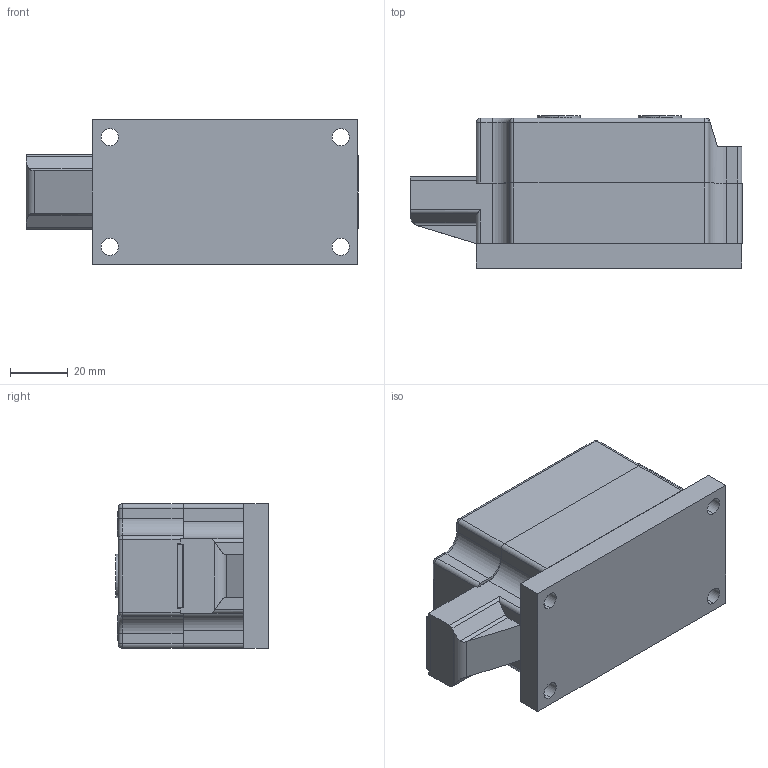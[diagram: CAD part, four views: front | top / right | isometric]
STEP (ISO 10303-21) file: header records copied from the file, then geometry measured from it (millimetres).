
FILE_DESCRIPTION (( 'STEP AP214' ), '1' );
FILE_NAME ('MTD3-TD.STEP', '2021-02-08T07:03:39', ( '' ), ( '' ), 'SwSTEP 2.0', 'SolidWorks 2018', '' );
FILE_SCHEMA (( 'AUTOMOTIVE_DESIGN' ));
Length unit declared in the file: millimetre
Products named in the file (1): MTD3-TD
Bounding box: 115 x 52.85 x 50 mm (x, y, z)
Volume: 77516.9 mm3; surface area: 54866.3 mm2
Topology: 14 solids, 14 shells, 481 faces, 1304 edges, 846 vertices
Faces by surface type: plane 307, cylinder 144, cone 20, sphere 6, torus 4
Entity records: 20744 total; most frequent: CARTESIAN_POINT 2889, ORIENTED_EDGE 2596, DIRECTION 2544, EDGE_CURVE 1298, LINE 926, VECTOR 926, VERTEX_POINT 846, AXIS2_PLACEMENT_3D 809
